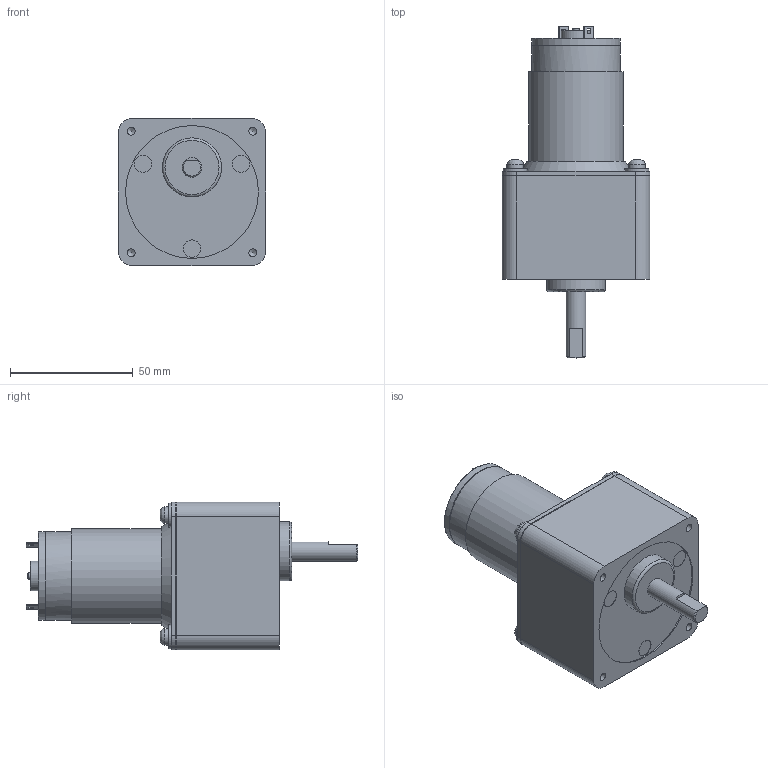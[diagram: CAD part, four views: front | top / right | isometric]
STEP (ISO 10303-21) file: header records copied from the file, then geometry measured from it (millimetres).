
FILE_DESCRIPTION((''),'2;1');
FILE_NAME('C:\Documents and Settings\SSEGAWA\デスクトップ\TP-3850A-CM-4.STP','2013-07-29T09:59:58',('SSEGAWA'),(''),'Autodesk Inventor 2010','Autodesk Inventor 2010','');
FILE_SCHEMA(('CONFIG_CONTROL_DESIGN'));
Length unit declared in the file: millimetre
Products named in the file (1): tp_3850a_cm_4_Shrinkwrap_1
Bounding box: 60 x 135 x 60 mm (x, y, z)
Volume: 222069.3 mm3; surface area: 26538.5 mm2
Topology: 1 solids, 4 shells, 124 faces, 270 edges, 177 vertices
Faces by surface type: plane 60, cylinder 35, bspline 22, torus 4, cone 3
Full cylindrical faces by diameter (mm): 2.5 x1, 3 x1, 4.5 x1, 6.8 x4, 7 x3, 8 x1, 9.8 x4, 12 x1, 24 x1, 35.6 x1, 36 x2, 54 x1
Entity records: 3526 total; most frequent: CARTESIAN_POINT 912, DIRECTION 512, ORIENTED_EDGE 420, EDGE_CURVE 210, AXIS2_PLACEMENT_3D 201, EDGE_LOOP 197, VERTEX_POINT 161, STYLED_ITEM 125
